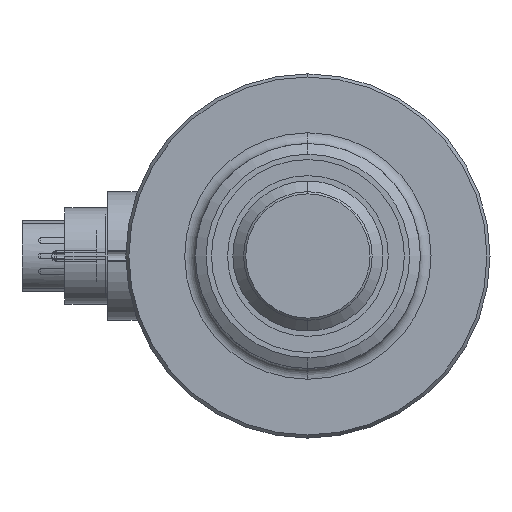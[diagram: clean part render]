
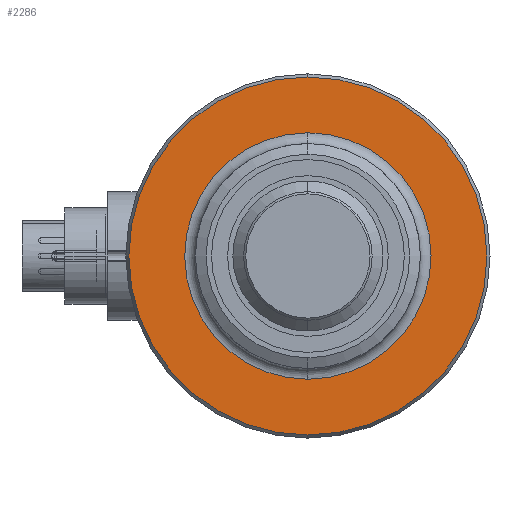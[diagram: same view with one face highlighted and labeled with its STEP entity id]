
A CAD part, left-side view. The second image highlights one B-rep face of the part: STEP entity #2286.
In plain terms, the highlighted planar face has unit normal (-1, 0, 0).
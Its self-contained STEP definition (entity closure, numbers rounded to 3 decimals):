
#245=CARTESIAN_POINT('',(-4.,0.,
0.));
#246=DIRECTION('',(1.,0.,0.));
#247=DIRECTION('',(0.,0.,-1.));
#248=AXIS2_PLACEMENT_3D('',#245,#246,#247);
#250=CARTESIAN_POINT('',(-4.,0.,0.));
#251=DIRECTION('',(1.,0.,0.));
#252=DIRECTION('',(0.,0.,1.));
#253=AXIS2_PLACEMENT_3D('',#250,#251,#252);
#255=CARTESIAN_POINT('',(-4.,0.,0.));
#256=DIRECTION('',(-1.,0.,0.));
#257=DIRECTION('',(0.,0.,1.));
#258=AXIS2_PLACEMENT_3D('',#255,#256,#257);
#260=CARTESIAN_POINT('',(-4.,0.,0.));
#261=DIRECTION('',(-1.,0.,0.));
#262=DIRECTION('',(0.,0.01,1.));
#263=AXIS2_PLACEMENT_3D('',#260,#261,#262);
#265=CARTESIAN_POINT('',(-4.,0.,0.));
#266=DIRECTION('',(-1.,0.,0.));
#267=DIRECTION('',(0.,0.,-1.));
#268=AXIS2_PLACEMENT_3D('',#265,#266,#267);
#270=CARTESIAN_POINT('',(-4.,0.,0.));
#271=DIRECTION('',(-1.,0.,0.));
#272=DIRECTION('',(0.,-0.01,-1.));
#273=AXIS2_PLACEMENT_3D('',#270,#271,#272);
#1733=CARTESIAN_POINT('',(-4.,0.,
16.711));
#1734=CARTESIAN_POINT('',(-4.,0.,
-16.711));
#1735=VERTEX_POINT('',#1733);
#1736=VERTEX_POINT('',#1734);
#1737=CARTESIAN_POINT('',(-4.,0.121,11.499));
#1738=CARTESIAN_POINT('',(-4.,0.,-11.5));
#1739=VERTEX_POINT('',#1737);
#1740=VERTEX_POINT('',#1738);
#1741=CARTESIAN_POINT('',(-4.,0.,11.5));
#1742=VERTEX_POINT('',#1741);
#1743=CARTESIAN_POINT('',(-4.,-0.121,-11.499));
#1744=VERTEX_POINT('',#1743);
#2269=CARTESIAN_POINT('',(-4.,0.,0.));
#2270=DIRECTION('',(1.,0.,0.));
#2271=DIRECTION('',(0.,0.,1.));
#2272=AXIS2_PLACEMENT_3D('',#2269,#2270,#2271);
#2273=PLANE('',#2272);
#2275=ORIENTED_EDGE('',*,*,#2274,.T.);
#2277=ORIENTED_EDGE('',*,*,#2276,.T.);
#2278=EDGE_LOOP('',(#2275,#2277));
#2279=FACE_OUTER_BOUND('',#2278,.F.);
#2280=ORIENTED_EDGE('',*,*,#2250,.T.);
#2281=ORIENTED_EDGE('',*,*,#2248,.T.);
#2282=ORIENTED_EDGE('',*,*,#2231,.T.);
#2283=ORIENTED_EDGE('',*,*,#2229,.T.);
#2284=EDGE_LOOP('',(#2280,#2281,#2282,#2283));
#2285=FACE_BOUND('',#2284,.F.);
#2286=ADVANCED_FACE('',(#2279,#2285),#2273,.F.);
#249=CIRCLE('',#248,16.711);
#254=CIRCLE('',#253,16.711);
#259=CIRCLE('',#258,11.5);
#264=CIRCLE('',#263,11.5);
#269=CIRCLE('',#268,11.5);
#274=CIRCLE('',#273,11.5);
#2229=EDGE_CURVE('',#1744,#1742,#274,.T.);
#2231=EDGE_CURVE('',#1740,#1744,#269,.T.);
#2248=EDGE_CURVE('',#1739,#1740,#264,.T.);
#2250=EDGE_CURVE('',#1742,#1739,#259,.T.);
#2274=EDGE_CURVE('',#1736,#1735,#249,.T.);
#2276=EDGE_CURVE('',#1735,#1736,#254,.T.);
